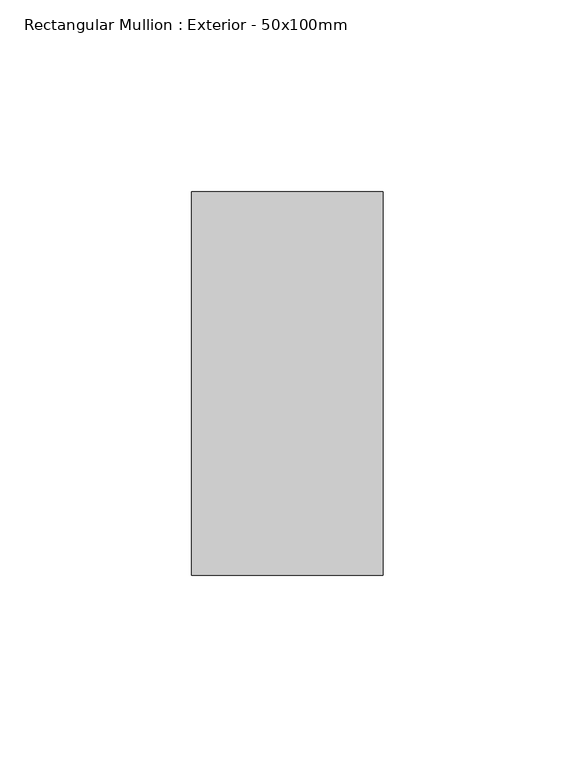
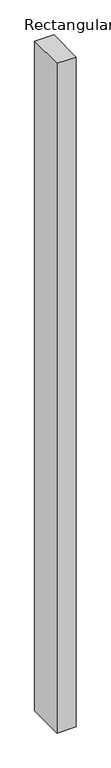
"""IFC4 building model written with IfcOpenShell, lengths in millimetres: member geometry, Rectangular Mullion : Exterior - 50x100mm."""

from ifc_helpers import new_model, si_unit, frame, origin, place, context, project, spatial, polyline, outline, extrude, source, transform, mapped, element, save


def rectangular_mullion_exterior_50x100mm_1d47d4e6(model_context):
    return source(origin(), model_context, "Body", "SweptSolid", [
        extrude(outline(polyline([(0.0, 100.0), (0.0, 0.0), (-50.0, 0.0), (-50.0, 100.0), (0.0, 100.0)])), frame((0.0, 0.0, -1835.0), z_axis=(0.0, 0.0, 1.0), x_axis=(1.0, 0.0, 0.0)), (0.0, 0.0, 1.0), 1835.0),
    ])


if __name__ == "__main__":
    model = new_model("IFC4")
    model_context = context("Model", 3, world=origin())
    ifc_project = project(units=[si_unit("LENGTHUNIT", "METRE", prefix="MILLI")], contexts=[model_context])
    site = spatial("IfcSite", under=ifc_project)
    building = spatial("IfcBuilding", under=site)
    placement = place(None, origin())
    rectangular_mullion_exterior_50x100mm_shape = rectangular_mullion_exterior_50x100mm_1d47d4e6(model_context)
    element("IfcMember", 1, ObjectType="Rectangular Mullion : Exterior - 50x100mm", at=placement, inside=building, context=model_context, shape_type="MappedRepresentation", body=[
        mapped(rectangular_mullion_exterior_50x100mm_shape, transform((0.0, 0.0, 0.0), x_axis=(1.0, 0.0, 0.0), y_axis=(0.0, 1.0, 0.0), z_axis=(0.0, 0.0, 1.0))),
    ])
    save(model, "model.ifc")
